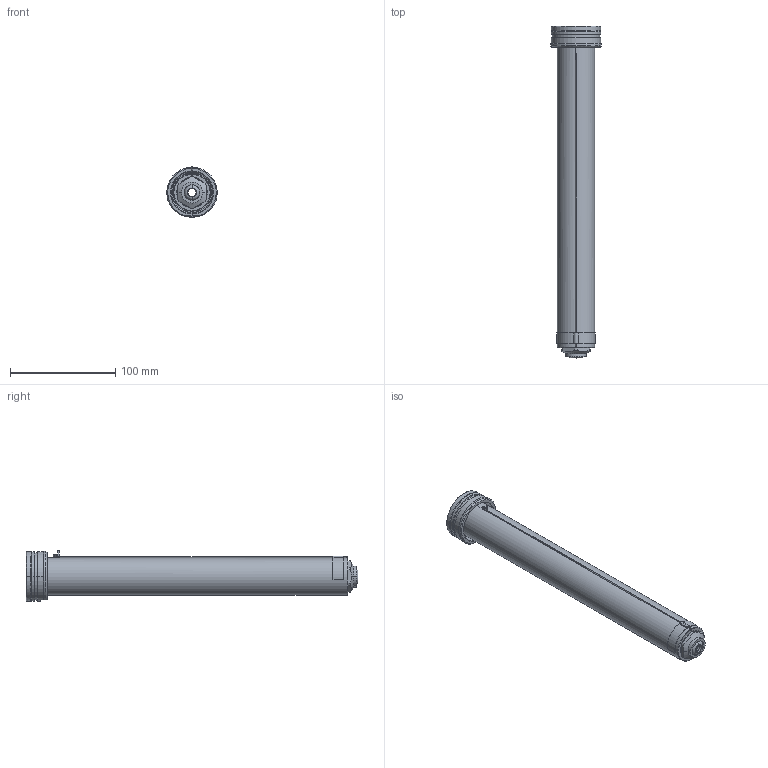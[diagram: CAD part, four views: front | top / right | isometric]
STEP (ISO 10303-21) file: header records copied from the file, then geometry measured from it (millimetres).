
FILE_DESCRIPTION((''),'2;1');
FILE_NAME('EO16_VG-BL_WR_300_SW','2024-02-19T13:22:42',('sundharh'),(''),'CREO PARAMETRIC BY PTC INC, 2023154','CREO PARAMETRIC BY PTC INC, 2023154','');
FILE_SCHEMA(('CONFIG_CONTROL_DESIGN'));
Length unit declared in the file: millimetre
Products named in the file (1): EO16_VG-BL_WR_300_SW
Bounding box: 47.97 x 315.8 x 48 mm (x, y, z)
Volume: 256979.6 mm3; surface area: 60263.4 mm2
Topology: 1 solids, 1 shells, 192 faces, 463 edges, 279 vertices
Faces by surface type: cylinder 72, plane 46, cone 37, torus 22, bspline 13, sphere 2
Entity records: 6574 total; most frequent: CARTESIAN_POINT 2019, DIRECTION 1020, ORIENTED_EDGE 914, EDGE_CURVE 457, AXIS2_PLACEMENT_3D 426, VERTEX_POINT 279, CIRCLE 247, EDGE_LOOP 208
